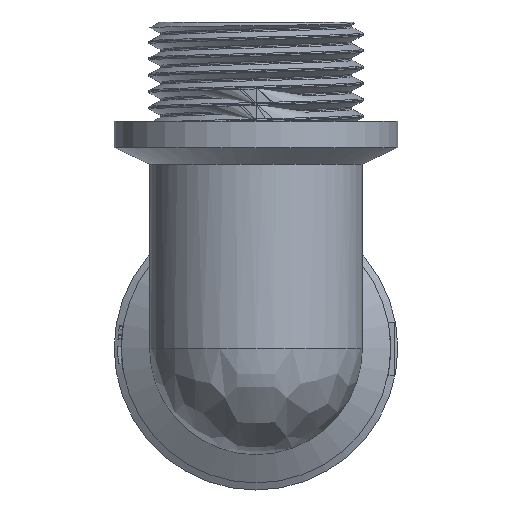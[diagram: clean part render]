
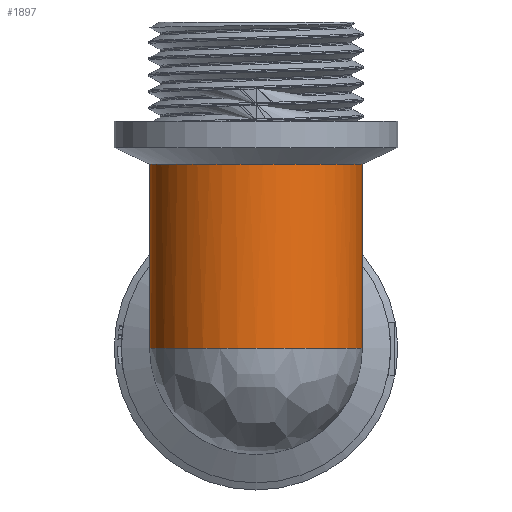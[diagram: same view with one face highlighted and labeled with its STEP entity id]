
A CAD part, front view. The second image highlights one B-rep face of the part: STEP entity #1897.
In plain terms, the highlighted cylindrical face has radius 15 mm (diameter 30 mm), a full revolution.
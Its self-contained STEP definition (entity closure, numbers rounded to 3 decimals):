
#56=B_SPLINE_CURVE_WITH_KNOTS('',3,(#2813,#2814,#2815,#2816,#2817,#2818,
#2819,#2820,#2821,#2822,#2823,#2824,#2825,#2826,#2827,#2828,#2829,#2830,
#2831),.UNSPECIFIED.,.F.,.F.,(4,2,2,2,3,2,2,2,4),(-2.26,-1.695,
-1.13,-0.565,0.,0.565,1.13,
1.695,2.26),.UNSPECIFIED.);
#57=B_SPLINE_CURVE_WITH_KNOTS('',3,(#2832,#2833,#2834,#2835),
 .UNSPECIFIED.,.F.,.F.,(4,4),(-2.26,-2.26),
 .UNSPECIFIED.);
#191=ELLIPSE('',#2096,21.213,15.);
#265=FACE_OUTER_BOUND('',#381,.T.);
#381=EDGE_LOOP('',(#1581,#1582,#1583,#1584,#1585,#1586,#1587,#1588));
#524=LINE('',#3118,#641);
#641=VECTOR('',#2511,15.);
#689=CIRCLE('',#2022,15.);
#725=CIRCLE('',#2095,15.);
#726=CIRCLE('',#2097,15.);
#791=VERTEX_POINT('',#2792);
#792=VERTEX_POINT('',#2793);
#798=VERTEX_POINT('',#2812);
#868=VERTEX_POINT('',#3117);
#869=VERTEX_POINT('',#3119);
#870=VERTEX_POINT('',#3121);
#1007=EDGE_CURVE('',#791,#792,#689,.T.);
#1017=EDGE_CURVE('',#798,#791,#56,.T.);
#1018=EDGE_CURVE('',#792,#798,#57,.T.);
#1120=EDGE_CURVE('',#798,#868,#524,.T.);
#1121=EDGE_CURVE('',#868,#869,#725,.T.);
#1122=EDGE_CURVE('',#870,#869,#191,.T.);
#1123=EDGE_CURVE('',#870,#868,#726,.T.);
#1581=ORIENTED_EDGE('',*,*,#1007,.T.);
#1582=ORIENTED_EDGE('',*,*,#1018,.T.);
#1583=ORIENTED_EDGE('',*,*,#1120,.T.);
#1584=ORIENTED_EDGE('',*,*,#1121,.T.);
#1585=ORIENTED_EDGE('',*,*,#1122,.F.);
#1586=ORIENTED_EDGE('',*,*,#1123,.T.);
#1587=ORIENTED_EDGE('',*,*,#1120,.F.);
#1588=ORIENTED_EDGE('',*,*,#1017,.T.);
#1809=CYLINDRICAL_SURFACE('',#2094,15.);
#1897=ADVANCED_FACE('',(#265),#1809,.T.);
#2022=AXIS2_PLACEMENT_3D('',#2794,#2298,#2299);
#2094=AXIS2_PLACEMENT_3D('',#3116,#2509,#2510);
#2095=AXIS2_PLACEMENT_3D('',#3120,#2512,#2513);
#2096=AXIS2_PLACEMENT_3D('',#3122,#2514,#2515);
#2097=AXIS2_PLACEMENT_3D('',#3123,#2516,#2517);
#2298=DIRECTION('center_axis',(0.,0.,-1.));
#2299=DIRECTION('ref_axis',(-1.,0.,0.));
#2509=DIRECTION('center_axis',(0.,0.,1.));
#2510=DIRECTION('ref_axis',(-1.,0.,0.));
#2511=DIRECTION('',(0.,0.,-1.));
#2512=DIRECTION('center_axis',(0.,0.,1.));
#2513=DIRECTION('ref_axis',(-1.,0.,0.));
#2514=DIRECTION('center_axis',(0.,0.707,-0.707));
#2515=DIRECTION('ref_axis',(0.,-0.707,-0.707));
#2516=DIRECTION('center_axis',(0.,0.,1.));
#2517=DIRECTION('ref_axis',(-1.,0.,0.));
#2792=CARTESIAN_POINT('',(-15.,-46.,25.969));
#2793=CARTESIAN_POINT('',(15.,-46.,25.969));
#2794=CARTESIAN_POINT('Origin',(0.,-46.,25.969));
#2812=CARTESIAN_POINT('',(15.,-46.,25.969));
#2813=CARTESIAN_POINT('Ctrl Pts',(15.,-46.,25.969));
#2814=CARTESIAN_POINT('Ctrl Pts',(15.,-47.883,25.97));
#2815=CARTESIAN_POINT('Ctrl Pts',(14.624,-49.892,25.97));
#2816=CARTESIAN_POINT('Ctrl Pts',(13.093,-53.587,25.97));
#2817=CARTESIAN_POINT('Ctrl Pts',(11.939,-55.274,25.97));
#2818=CARTESIAN_POINT('Ctrl Pts',(9.275,-57.938,25.97));
#2819=CARTESIAN_POINT('Ctrl Pts',(7.589,-59.093,25.97));
#2820=CARTESIAN_POINT('Ctrl Pts',(3.893,-60.624,25.97));
#2821=CARTESIAN_POINT('Ctrl Pts',(1.884,-61.,25.97));
#2822=CARTESIAN_POINT('Ctrl Pts',(0.,-61.,25.97));
#2823=CARTESIAN_POINT('Ctrl Pts',(-1.884,-61.,25.97));
#2824=CARTESIAN_POINT('Ctrl Pts',(-3.893,-60.624,25.97));
#2825=CARTESIAN_POINT('Ctrl Pts',(-7.589,-59.093,25.97));
#2826=CARTESIAN_POINT('Ctrl Pts',(-9.275,-57.938,25.97));
#2827=CARTESIAN_POINT('Ctrl Pts',(-11.939,-55.274,25.97));
#2828=CARTESIAN_POINT('Ctrl Pts',(-13.093,-53.587,25.97));
#2829=CARTESIAN_POINT('Ctrl Pts',(-14.624,-49.892,25.97));
#2830=CARTESIAN_POINT('Ctrl Pts',(-15.,-47.883,25.97));
#2831=CARTESIAN_POINT('Ctrl Pts',(-15.,-46.,25.969));
#2832=CARTESIAN_POINT('Ctrl Pts',(15.,-46.,25.969));
#2833=CARTESIAN_POINT('Ctrl Pts',(15.,-46.,25.969));
#2834=CARTESIAN_POINT('Ctrl Pts',(15.,-46.,25.969));
#2835=CARTESIAN_POINT('Ctrl Pts',(15.,-46.,25.969));
#3116=CARTESIAN_POINT('Origin',(0.,-46.,0.001));
#3117=CARTESIAN_POINT('',(15.,-46.,0.001));
#3118=CARTESIAN_POINT('',(15.,-46.,0.001));
#3119=CARTESIAN_POINT('',(15.,-45.999,0.001));
#3120=CARTESIAN_POINT('Origin',(0.,-46.,0.001));
#3121=CARTESIAN_POINT('',(-15.,-45.999,0.001));
#3122=CARTESIAN_POINT('Origin',(0.,-46.,0.));
#3123=CARTESIAN_POINT('Origin',(0.,-46.,0.001));
